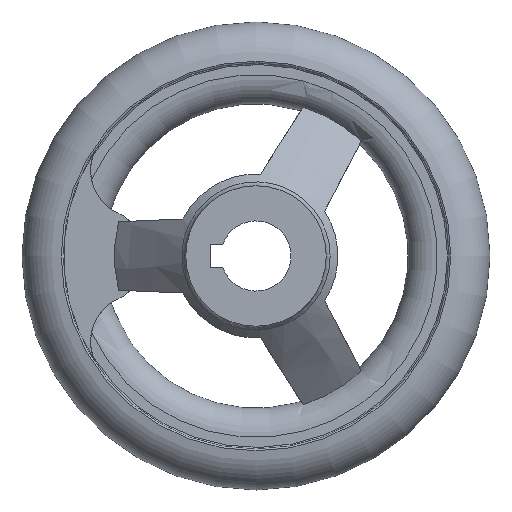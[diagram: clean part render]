
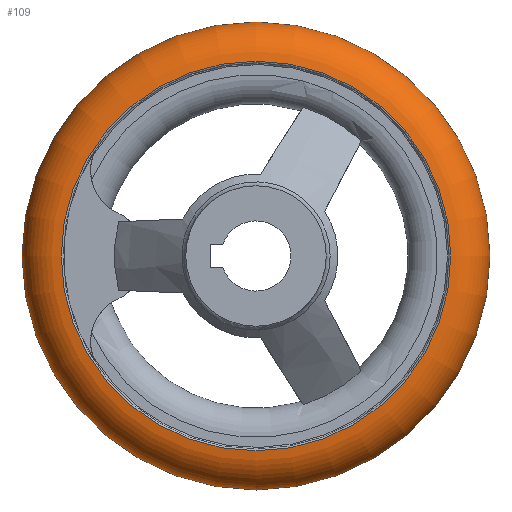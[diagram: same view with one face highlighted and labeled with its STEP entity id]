
A CAD part, left-side view. The second image highlights one B-rep face of the part: STEP entity #109.
In plain terms, the highlighted toroidal (fillet/blend) face has major radius 32.994 mm and minor radius 7.006 mm.
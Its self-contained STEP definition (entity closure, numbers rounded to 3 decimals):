
#109 = ADVANCED_FACE( '', ( #199, #200, #201 ), #202, .T. );
#199 = FACE_BOUND( '', #297, .T. );
#200 = FACE_OUTER_BOUND( '', #298, .T. );
#201 = FACE_OUTER_BOUND( '', #299, .T. );
#202 = TOROIDAL_SURFACE( '', #300, 32.994, 7.006 );
#297 = VERTEX_LOOP( '', #590 );
#298 = EDGE_LOOP( '', ( #591 ) );
#299 = EDGE_LOOP( '', ( #592 ) );
#300 = AXIS2_PLACEMENT_3D( '', #593, #594, #595 );
#590 = VERTEX_POINT( '', #728 );
#591 = ORIENTED_EDGE( '', *, *, #727, .T. );
#592 = ORIENTED_EDGE( '', *, *, #690, .F. );
#593 = CARTESIAN_POINT( '', ( 22., 0., 0. ) );
#594 = DIRECTION( '', ( -1., 0., 0. ) );
#595 = DIRECTION( '', ( 0., -1., 0. ) );
#690 = EDGE_CURVE( '', #839, #839, #840, .T. );
#727 = EDGE_CURVE( '', #896, #896, #897, .T. );
#728 = CARTESIAN_POINT( '', ( 22., -40., 0. ) );
#839 = VERTEX_POINT( '', #1283 );
#840 = CIRCLE( '', #1284, 33.292 );
#896 = VERTEX_POINT( '', #1376 );
#897 = CIRCLE( '', #1377, 33.292 );
#1283 = CARTESIAN_POINT( '', ( 15., -33.292, 0. ) );
#1284 = AXIS2_PLACEMENT_3D( '', #1468, #1469, #1470 );
#1376 = CARTESIAN_POINT( '', ( 29., -33.292, 0. ) );
#1377 = AXIS2_PLACEMENT_3D( '', #1545, #1546, #1547 );
#1468 = CARTESIAN_POINT( '', ( 15., 0., 0. ) );
#1469 = DIRECTION( '', ( -1., 0., 0. ) );
#1470 = DIRECTION( '', ( 0., -1., 0. ) );
#1545 = CARTESIAN_POINT( '', ( 29., 0., 0. ) );
#1546 = DIRECTION( '', ( -1., 0., 0. ) );
#1547 = DIRECTION( '', ( 0., -1., 0. ) );
